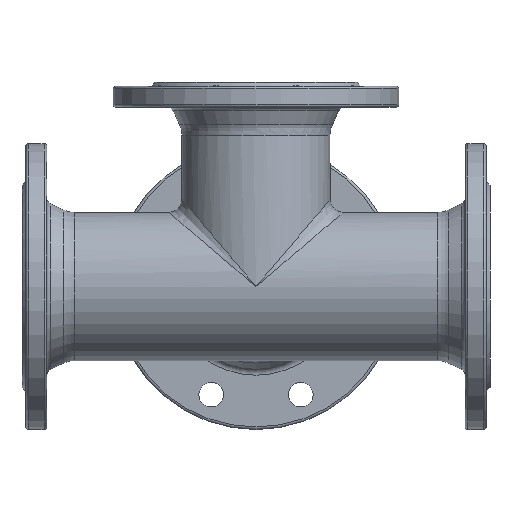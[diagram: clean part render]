
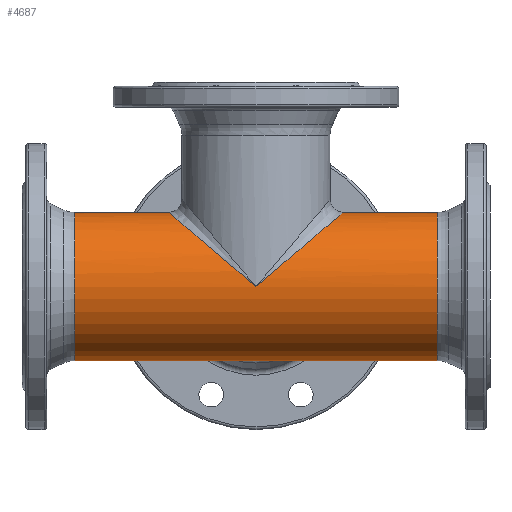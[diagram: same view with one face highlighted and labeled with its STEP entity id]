
A CAD part, front view. The second image highlights one B-rep face of the part: STEP entity #4687.
In plain terms, the highlighted cylindrical face has radius 57 mm (diameter 114 mm), a full revolution.
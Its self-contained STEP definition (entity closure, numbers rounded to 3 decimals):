
#133 = CIRCLE ( 'NONE', #1563, 57. ) ;
#199 = FACE_BOUND ( 'NONE', #6989, .T. ) ;
#205 = FACE_OUTER_BOUND ( 'NONE', #6826, .T. ) ;
#210 = FACE_OUTER_BOUND ( 'NONE', #6962, .T. ) ;
#213 = CYLINDRICAL_SURFACE ( 'NONE', #1610, 57. ) ;
#465 = VERTEX_POINT ( 'NONE', #1421 ) ;
#522 = VERTEX_POINT ( 'NONE', #1478 ) ;
#1217 = CARTESIAN_POINT ( 'NONE',  ( 0., 0., -57. ) ) ;
#1248 = CARTESIAN_POINT ( 'NONE',  ( 0., -57., 0. ) ) ;
#1249 = CARTESIAN_POINT ( 'NONE',  ( 47.376, 40.305, 40.305 ) ) ;
#1421 = CARTESIAN_POINT ( 'NONE',  ( 139.41, 0., 57. ) ) ;
#1478 = CARTESIAN_POINT ( 'NONE',  ( -139.41, 0., 57. ) ) ;
#1563 = AXIS2_PLACEMENT_3D ( 'NONE', #5807, #5808, #5809 ) ;
#1610 = AXIS2_PLACEMENT_3D ( 'NONE', #6034, #6035, #6033 ) ;
#2070 = CARTESIAN_POINT ( 'NONE',  ( 70.127, 59.66, -57. ) ) ;
#2071 = CARTESIAN_POINT ( 'NONE',  ( 96.963, 82.491, -1.881 ) ) ;
#2075 = CARTESIAN_POINT ( 'NONE',  ( 0., 0., -57. ) ) ;
#2076 = CARTESIAN_POINT ( 'NONE',  ( 47.376, 40.305, 40.305 ) ) ;
#2099 = CARTESIAN_POINT ( 'NONE',  ( 47.376, 40.305, 40.305 ) ) ;
#2101 = CARTESIAN_POINT ( 'NONE',  ( 96.963, -1.881, 82.491 ) ) ;
#2109 = CARTESIAN_POINT ( 'NONE',  ( 70.127, -57., 59.66 ) ) ;
#2110 = CARTESIAN_POINT ( 'NONE',  ( 0., -57., 0. ) ) ;
#2812 = EDGE_CURVE ( 'NONE', #6582, #4126, #3005, .T. ) ;
#2817 = EDGE_CURVE ( 'NONE', #465, #465, #4617, .T. ) ;
#3005 =( BOUNDED_CURVE ( )  B_SPLINE_CURVE ( 3, ( #3905, #3900, #3901, #3906 ),
 .UNSPECIFIED., .F., .T. ) 
 B_SPLINE_CURVE_WITH_KNOTS ( ( 4, 4 ),
 ( 4.712, 7.069 ),
 .UNSPECIFIED. ) 
 CURVE ( )  GEOMETRIC_REPRESENTATION_ITEM ( )  RATIONAL_B_SPLINE_CURVE ( ( 1., 0.588, 0.588, 1. ) ) 
 REPRESENTATION_ITEM ( '' )  );
#3173 = EDGE_CURVE ( 'NONE', #6464, #6590, #4936, .T. ) ;
#3179 = EDGE_CURVE ( 'NONE', #6590, #6582, #4943, .T. ) ;
#3227 = AXIS2_PLACEMENT_3D ( 'NONE', #3927, #3983, #3982 ) ;
#3882 = EDGE_CURVE ( 'NONE', #522, #522, #133, .T. ) ;
#3885 = EDGE_CURVE ( 'NONE', #4126, #6464, #4975, .T. ) ;
#3900 = CARTESIAN_POINT ( 'NONE',  ( -70.127, -57., 59.66 ) ) ;
#3901 = CARTESIAN_POINT ( 'NONE',  ( -96.963, -1.881, 82.491 ) ) ;
#3905 = CARTESIAN_POINT ( 'NONE',  ( 0., -57., 0. ) ) ;
#3906 = CARTESIAN_POINT ( 'NONE',  ( -47.376, 40.305, 40.305 ) ) ;
#3927 = CARTESIAN_POINT ( 'NONE',  ( 139.41, 0., 0. ) ) ;
#3982 = DIRECTION ( 'NONE',  ( 0., 0., 1. ) ) ;
#3983 = DIRECTION ( 'NONE',  ( -1., 0., 0. ) ) ;
#4008 = ORIENTED_EDGE ( 'NONE', *, *, #2812, .T. ) ;
#4026 = ORIENTED_EDGE ( 'NONE', *, *, #3179, .T. ) ;
#4126 = VERTEX_POINT ( 'NONE', #5887 ) ;
#4196 = ORIENTED_EDGE ( 'NONE', *, *, #3173, .T. ) ;
#4216 = ORIENTED_EDGE ( 'NONE', *, *, #2817, .T. ) ;
#4220 = ORIENTED_EDGE ( 'NONE', *, *, #3882, .T. ) ;
#4287 = ORIENTED_EDGE ( 'NONE', *, *, #3885, .T. ) ;
#4617 = CIRCLE ( 'NONE', #3227, 57. ) ;
#4687 = ADVANCED_FACE ( 'NONE', ( #205, #210, #199 ), #213, .T. ) ;
#4936 =( BOUNDED_CURVE ( )  B_SPLINE_CURVE ( 3, ( #2075, #2070, #2071, #2076 ),
 .UNSPECIFIED., .F., .T. ) 
 B_SPLINE_CURVE_WITH_KNOTS ( ( 4, 4 ),
 ( 1.571, 3.927 ),
 .UNSPECIFIED. ) 
 CURVE ( )  GEOMETRIC_REPRESENTATION_ITEM ( )  RATIONAL_B_SPLINE_CURVE ( ( 1., 0.588, 0.588, 1. ) ) 
 REPRESENTATION_ITEM ( '' )  );
#4943 =( BOUNDED_CURVE ( )  B_SPLINE_CURVE ( 3, ( #2099, #2101, #2109, #2110 ),
 .UNSPECIFIED., .F., .T. ) 
 B_SPLINE_CURVE_WITH_KNOTS ( ( 4, 4 ),
 ( 2.356, 4.712 ),
 .UNSPECIFIED. ) 
 CURVE ( )  GEOMETRIC_REPRESENTATION_ITEM ( )  RATIONAL_B_SPLINE_CURVE ( ( 1., 0.588, 0.588, 1. ) ) 
 REPRESENTATION_ITEM ( '' )  );
#4975 =( BOUNDED_CURVE ( )  B_SPLINE_CURVE ( 3, ( #5805, #5798, #5816, #5817 ),
 .UNSPECIFIED., .F., .T. ) 
 B_SPLINE_CURVE_WITH_KNOTS ( ( 4, 4 ),
 ( 5.498, 7.854 ),
 .UNSPECIFIED. ) 
 CURVE ( )  GEOMETRIC_REPRESENTATION_ITEM ( )  RATIONAL_B_SPLINE_CURVE ( ( 1., 0.588, 0.588, 1. ) ) 
 REPRESENTATION_ITEM ( '' )  );
#5798 = CARTESIAN_POINT ( 'NONE',  ( -96.963, 82.491, -1.881 ) ) ;
#5805 = CARTESIAN_POINT ( 'NONE',  ( -47.376, 40.305, 40.305 ) ) ;
#5807 = CARTESIAN_POINT ( 'NONE',  ( -139.41, 0., 0. ) ) ;
#5808 = DIRECTION ( 'NONE',  ( 1., 0., 0. ) ) ;
#5809 = DIRECTION ( 'NONE',  ( 0., 0., 1. ) ) ;
#5816 = CARTESIAN_POINT ( 'NONE',  ( -70.127, 59.66, -57. ) ) ;
#5817 = CARTESIAN_POINT ( 'NONE',  ( 0., 0., -57. ) ) ;
#5887 = CARTESIAN_POINT ( 'NONE',  ( -47.376, 40.305, 40.305 ) ) ;
#6033 = DIRECTION ( 'NONE',  ( 0., 0., 1. ) ) ;
#6034 = CARTESIAN_POINT ( 'NONE',  ( -292.261, 0., 0. ) ) ;
#6035 = DIRECTION ( 'NONE',  ( -1., 0., 0. ) ) ;
#6464 = VERTEX_POINT ( 'NONE', #1217 ) ;
#6582 = VERTEX_POINT ( 'NONE', #1248 ) ;
#6590 = VERTEX_POINT ( 'NONE', #1249 ) ;
#6826 = EDGE_LOOP ( 'NONE', ( #4216 ) ) ;
#6962 = EDGE_LOOP ( 'NONE', ( #4220 ) ) ;
#6989 = EDGE_LOOP ( 'NONE', ( #4026, #4008, #4287, #4196 ) ) ;
